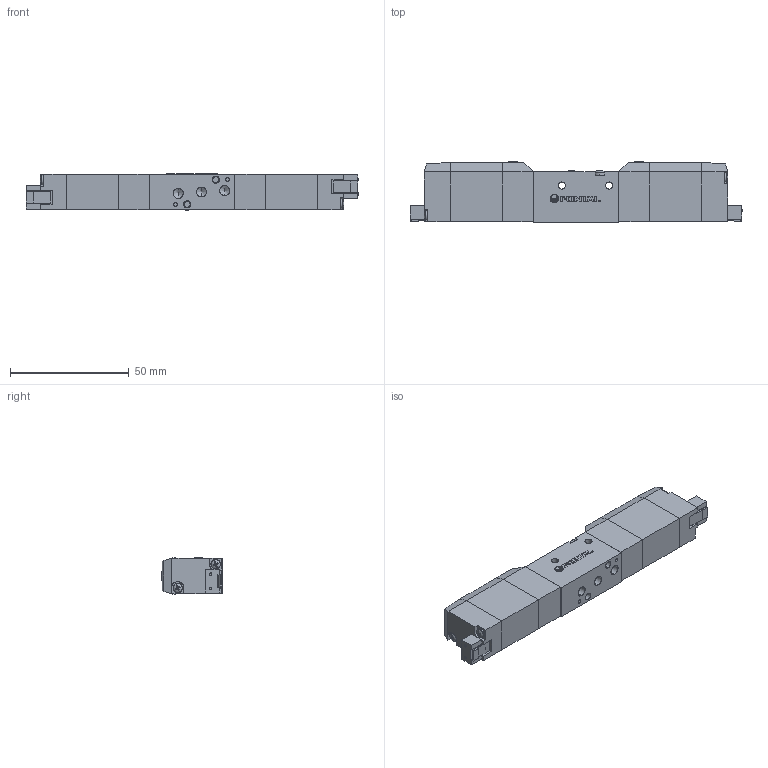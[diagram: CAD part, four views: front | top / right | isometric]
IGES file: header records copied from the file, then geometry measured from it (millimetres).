
Start section: SolidWorks IGES file using analytic representation for surfaces
Global section: file name: D:\Custom\3D繪製\PC\RC5\RCD345#-M5-#-SP-#.IGS,1; native system: 5HSolidWorks 2014; preprocessor: SolidWorks 2014; author: Chieh_Lu; date: 150809.173120; units: millimetre
Bounding box: 140 x 26 x 15.4 mm (x, y, z)
Surface area: 19127.3 mm2 (no closed solid volume)
Topology: 0 solids, 0 shells, 606 faces, 5104 edges, 5082 vertices
Faces by surface type: bspline 417, revolution 189
